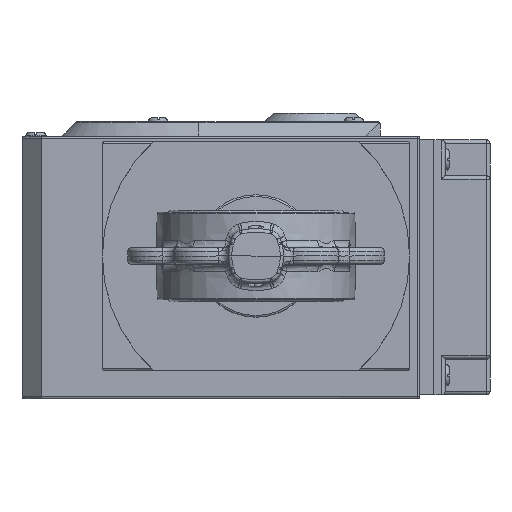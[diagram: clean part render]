
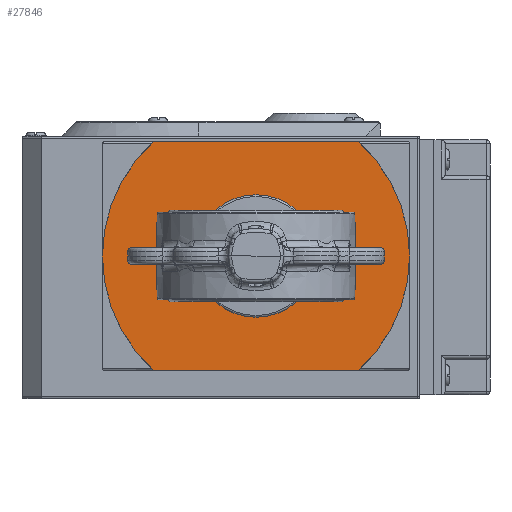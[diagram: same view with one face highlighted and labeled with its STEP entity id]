
A CAD part, front view. The second image highlights one B-rep face of the part: STEP entity #27846.
In plain terms, the highlighted planar face has unit normal (0, -1, 0).
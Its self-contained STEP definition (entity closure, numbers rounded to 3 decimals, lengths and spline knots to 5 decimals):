
#1601=PLANE('',#30879);
#3001=LINE('',#78585,#4323);
#3015=LINE('',#78617,#4337);
#4323=VECTOR('',#35975,0.11143);
#4337=VECTOR('',#35999,0.11143);
#6029=CIRCLE('',#30244,0.084);
#6284=CIRCLE('',#30878,0.084);
#6285=CIRCLE('',#30880,0.001);
#6286=CIRCLE('',#30881,0.001);
#6287=CIRCLE('',#30882,0.001);
#6288=CIRCLE('',#30883,0.001);
#8135=FACE_OUTER_BOUND('',#9886,.T.);
#9886=EDGE_LOOP('',(#25977,#25978,#25979,#25980,#25981,#25982,#25983,#25984));
#12991=VERTEX_POINT('',#78582);
#12992=VERTEX_POINT('',#78584);
#13004=VERTEX_POINT('',#78614);
#13005=VERTEX_POINT('',#78616);
#13009=VERTEX_POINT('',#78629);
#13010=VERTEX_POINT('',#78630);
#13567=VERTEX_POINT('',#82271);
#13568=VERTEX_POINT('',#82272);
#16799=EDGE_CURVE('',#12992,#12991,#3001,.T.);
#16815=EDGE_CURVE('',#13005,#13004,#3015,.T.);
#16822=EDGE_CURVE('',#13009,#13010,#6029,.T.);
#17708=EDGE_CURVE('',#13567,#13568,#6284,.T.);
#17713=EDGE_CURVE('',#13004,#13567,#6285,.F.);
#17714=EDGE_CURVE('',#13568,#12992,#6286,.F.);
#17715=EDGE_CURVE('',#12991,#13009,#6287,.F.);
#17716=EDGE_CURVE('',#13010,#13005,#6288,.F.);
#25977=ORIENTED_EDGE('',*,*,#16815,.T.);
#25978=ORIENTED_EDGE('',*,*,#17713,.T.);
#25979=ORIENTED_EDGE('',*,*,#17708,.T.);
#25980=ORIENTED_EDGE('',*,*,#17714,.T.);
#25981=ORIENTED_EDGE('',*,*,#16799,.T.);
#25982=ORIENTED_EDGE('',*,*,#17715,.T.);
#25983=ORIENTED_EDGE('',*,*,#16822,.T.);
#25984=ORIENTED_EDGE('',*,*,#17716,.T.);
#27846=ADVANCED_FACE('',(#8135),#1601,.F.);
#30244=AXIS2_PLACEMENT_3D('',#78631,#36012,#36013);
#30878=AXIS2_PLACEMENT_3D('',#82273,#37762,#37763);
#30879=AXIS2_PLACEMENT_3D('',#82290,#37766,#37767);
#30880=AXIS2_PLACEMENT_3D('',#82291,#37768,#37769);
#30881=AXIS2_PLACEMENT_3D('',#82292,#37770,#37771);
#30882=AXIS2_PLACEMENT_3D('',#82293,#37772,#37773);
#30883=AXIS2_PLACEMENT_3D('',#82294,#37774,#37775);
#35975=DIRECTION('',(1.,0.,0.));
#35999=DIRECTION('',(-1.,0.,0.));
#36012=DIRECTION('center_axis',(0.,-1.,0.));
#36013=DIRECTION('ref_axis',(1.,0.,0.));
#37762=DIRECTION('center_axis',(0.,-1.,0.));
#37763=DIRECTION('ref_axis',(1.,0.,0.));
#37766=DIRECTION('center_axis',(0.,1.,0.));
#37767=DIRECTION('ref_axis',(0.,0.,1.));
#37768=DIRECTION('center_axis',(0.,1.,0.));
#37769=DIRECTION('ref_axis',(-1.,0.,0.));
#37770=DIRECTION('center_axis',(0.,1.,0.));
#37771=DIRECTION('ref_axis',(-1.,0.,0.));
#37772=DIRECTION('center_axis',(0.,1.,0.));
#37773=DIRECTION('ref_axis',(-1.,0.,0.));
#37774=DIRECTION('center_axis',(0.,1.,0.));
#37775=DIRECTION('ref_axis',(-1.,0.,0.));
#78582=CARTESIAN_POINT('',(0.05572,-0.10875,-0.06252));
#78584=CARTESIAN_POINT('',(-0.05572,-0.10875,-0.06252));
#78585=CARTESIAN_POINT('',(-0.05572,-0.10875,-0.06252));
#78614=CARTESIAN_POINT('',(-0.05572,-0.10875,0.06252));
#78616=CARTESIAN_POINT('',(0.05572,-0.10875,0.06252));
#78617=CARTESIAN_POINT('',(0.05572,-0.10875,0.06252));
#78629=CARTESIAN_POINT('',(0.05639,-0.10875,-0.06226));
#78630=CARTESIAN_POINT('',(0.05639,-0.10875,0.06226));
#78631=CARTESIAN_POINT('Origin',(0.,-0.10875,0.));
#82271=CARTESIAN_POINT('',(-0.05639,-0.10875,0.06226));
#82272=CARTESIAN_POINT('',(-0.05639,-0.10875,-0.06226));
#82273=CARTESIAN_POINT('Origin',(0.,-0.10875,0.));
#82290=CARTESIAN_POINT('Origin',(0.,-0.10875,0.));
#82291=CARTESIAN_POINT('Origin',(-0.05572,-0.10875,0.06152));
#82292=CARTESIAN_POINT('Origin',(-0.05572,-0.10875,-0.06152));
#82293=CARTESIAN_POINT('Origin',(0.05572,-0.10875,-0.06152));
#82294=CARTESIAN_POINT('Origin',(0.05572,-0.10875,0.06152));
